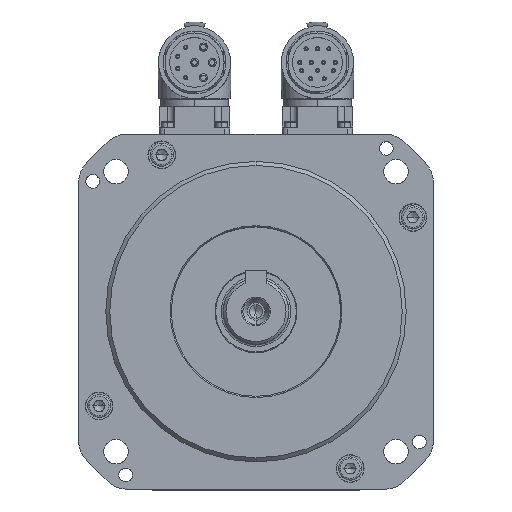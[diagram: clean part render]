
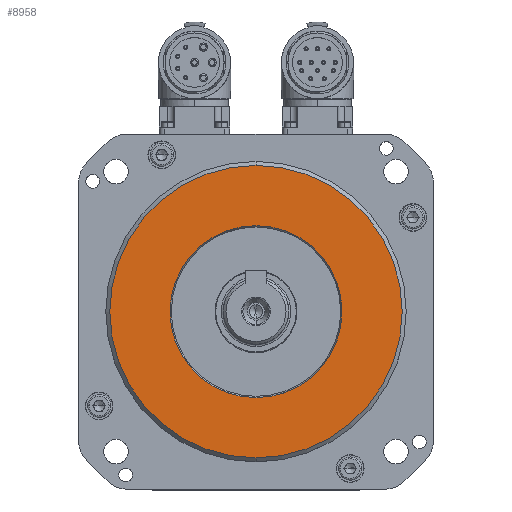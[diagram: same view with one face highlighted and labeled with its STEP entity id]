
A CAD part, top view. The second image highlights one B-rep face of the part: STEP entity #8958.
In plain terms, the highlighted planar face has unit normal (0, 0, 1).
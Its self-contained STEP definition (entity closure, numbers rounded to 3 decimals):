
#60 = CARTESIAN_POINT ( 'NONE',  ( 0., -53.54, 66.8 ) ) ;
#2143 = CARTESIAN_POINT ( 'NONE',  ( 0., 31.481, 66.8 ) ) ;
#2669 = ORIENTED_EDGE ( 'NONE', *, *, #40891, .F. ) ;
#3416 = PLANE ( 'NONE',  #39624 ) ;
#8958 = ADVANCED_FACE ( 'NONE', ( #48657, #47918 ), #3416, .T. ) ;
#9886 = DIRECTION ( 'NONE',  ( 0., -1., 0. ) ) ;
#10627 = EDGE_CURVE ( 'NONE', #39115, #48208, #56806, .T. ) ;
#11100 = EDGE_CURVE ( 'NONE', #53403, #54750, #30375, .T. ) ;
#12925 = DIRECTION ( 'NONE',  ( 0., -1., 0. ) ) ;
#14020 = DIRECTION ( 'NONE',  ( 0., -1., 0. ) ) ;
#14953 = ORIENTED_EDGE ( 'NONE', *, *, #10627, .T. ) ;
#18325 = DIRECTION ( 'NONE',  ( 0., 0., 1. ) ) ;
#19665 = ORIENTED_EDGE ( 'NONE', *, *, #23105, .T. ) ;
#20541 = AXIS2_PLACEMENT_3D ( 'NONE', #51683, #27729, #12925 ) ;
#23105 = EDGE_CURVE ( 'NONE', #48208, #39115, #36577, .T. ) ;
#24028 = CARTESIAN_POINT ( 'NONE',  ( 0., 0., 66.8 ) ) ;
#25507 = EDGE_LOOP ( 'NONE', ( #19665, #14953 ) ) ;
#27443 = DIRECTION ( 'NONE',  ( 0., 0., 1. ) ) ;
#27638 = ORIENTED_EDGE ( 'NONE', *, *, #11100, .F. ) ;
#27729 = DIRECTION ( 'NONE',  ( 0., 0., 1. ) ) ;
#30375 = CIRCLE ( 'NONE', #57097, 31.481 ) ;
#34831 = CARTESIAN_POINT ( 'NONE',  ( 0., 53.54, 66.8 ) ) ;
#36577 = CIRCLE ( 'NONE', #48363, 53.54 ) ;
#38051 = CARTESIAN_POINT ( 'NONE',  ( 0., 0., 66.8 ) ) ;
#38069 = CARTESIAN_POINT ( 'NONE',  ( 0., -31.481, 66.8 ) ) ;
#39115 = VERTEX_POINT ( 'NONE', #60 ) ;
#39624 = AXIS2_PLACEMENT_3D ( 'NONE', #42359, #27443, #42560 ) ;
#40891 = EDGE_CURVE ( 'NONE', #54750, #53403, #48932, .T. ) ;
#42359 = CARTESIAN_POINT ( 'NONE',  ( 0., 0., 66.8 ) ) ;
#42560 = DIRECTION ( 'NONE',  ( 0., -1., 0. ) ) ;
#42884 = DIRECTION ( 'NONE',  ( 0., 0., 1. ) ) ;
#47918 = FACE_OUTER_BOUND ( 'NONE', #25507, .T. ) ;
#48208 = VERTEX_POINT ( 'NONE', #34831 ) ;
#48363 = AXIS2_PLACEMENT_3D ( 'NONE', #56255, #18325, #50306 ) ;
#48657 = FACE_BOUND ( 'NONE', #56420, .T. ) ;
#48932 = CIRCLE ( 'NONE', #20541, 31.481 ) ;
#50306 = DIRECTION ( 'NONE',  ( 0., -1., 0. ) ) ;
#51683 = CARTESIAN_POINT ( 'NONE',  ( 0., 0., 66.8 ) ) ;
#53403 = VERTEX_POINT ( 'NONE', #38069 ) ;
#54750 = VERTEX_POINT ( 'NONE', #2143 ) ;
#56255 = CARTESIAN_POINT ( 'NONE',  ( 0., 0., 66.8 ) ) ;
#56420 = EDGE_LOOP ( 'NONE', ( #2669, #27638 ) ) ;
#56806 = CIRCLE ( 'NONE', #61572, 53.54 ) ;
#57097 = AXIS2_PLACEMENT_3D ( 'NONE', #38051, #42884, #14020 ) ;
#57721 = DIRECTION ( 'NONE',  ( 0., 0., 1. ) ) ;
#61572 = AXIS2_PLACEMENT_3D ( 'NONE', #24028, #57721, #9886 ) ;
